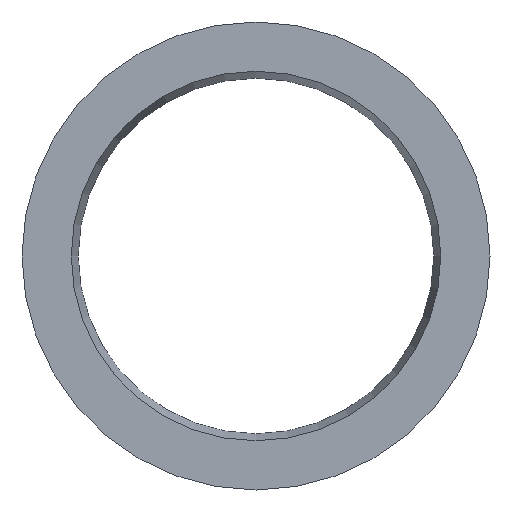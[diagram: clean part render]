
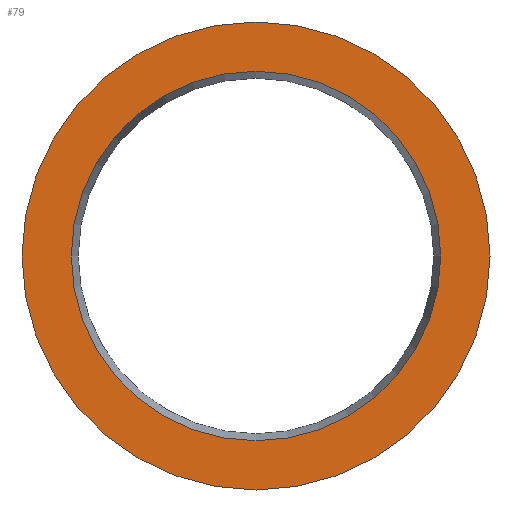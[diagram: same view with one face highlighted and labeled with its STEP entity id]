
A CAD part, front view. The second image highlights one B-rep face of the part: STEP entity #79.
In plain terms, the highlighted planar face has unit normal (0, -1, 0).
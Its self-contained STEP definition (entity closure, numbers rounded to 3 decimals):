
#79 = ADVANCED_FACE( '', ( #94, #95 ), #96, .T. );
#94 = FACE_OUTER_BOUND( '', #112, .T. );
#95 = FACE_BOUND( '', #113, .T. );
#96 = PLANE( '', #114 );
#112 = EDGE_LOOP( '', ( #138 ) );
#113 = EDGE_LOOP( '', ( #139 ) );
#114 = AXIS2_PLACEMENT_3D( '', #140, #141, #142 );
#138 = ORIENTED_EDGE( '', *, *, #153, .T. );
#139 = ORIENTED_EDGE( '', *, *, #152, .F. );
#140 = CARTESIAN_POINT( '', ( 9., 0., 0. ) );
#141 = DIRECTION( '', ( 0., -1., 0. ) );
#142 = DIRECTION( '', ( 0., 0., -1. ) );
#152 = EDGE_CURVE( '', #162, #162, #163, .T. );
#153 = EDGE_CURVE( '', #164, #164, #165, .T. );
#162 = VERTEX_POINT( '', #174 );
#163 = CIRCLE( '', #175, 9. );
#164 = VERTEX_POINT( '', #176 );
#165 = CIRCLE( '', #177, 11.4 );
#174 = CARTESIAN_POINT( '', ( 0., 0., -9. ) );
#175 = AXIS2_PLACEMENT_3D( '', #190, #191, #192 );
#176 = CARTESIAN_POINT( '', ( 0., 0., -11.4 ) );
#177 = AXIS2_PLACEMENT_3D( '', #193, #194, #195 );
#190 = CARTESIAN_POINT( '', ( 0., 0., 0. ) );
#191 = DIRECTION( '', ( 0., -1., 0. ) );
#192 = DIRECTION( '', ( 0., 0., -1. ) );
#193 = CARTESIAN_POINT( '', ( 0., 0., 0. ) );
#194 = DIRECTION( '', ( 0., -1., 0. ) );
#195 = DIRECTION( '', ( 0., 0., -1. ) );
